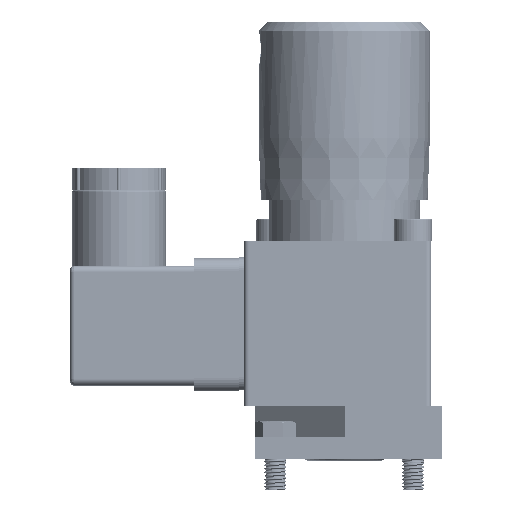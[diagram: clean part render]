
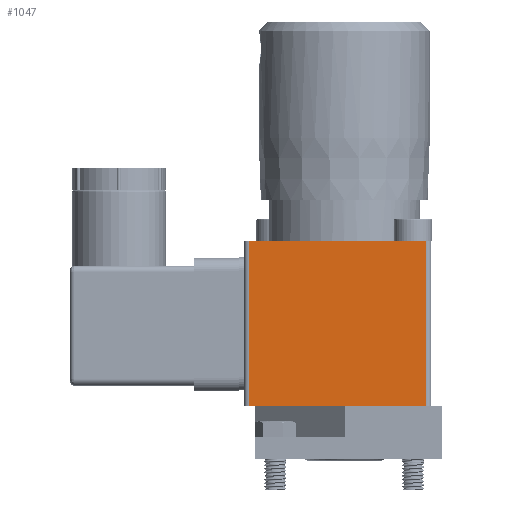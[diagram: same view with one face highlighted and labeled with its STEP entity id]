
A CAD part, front view. The second image highlights one B-rep face of the part: STEP entity #1047.
In plain terms, the highlighted planar face has unit normal (0, -1, 0).
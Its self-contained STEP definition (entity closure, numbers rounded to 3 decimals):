
#1047=ADVANCED_FACE('',(#1856),#1558,.T.);
#1558=PLANE('',#9251);
#1856=FACE_OUTER_BOUND('',#2309,.T.);
#2309=EDGE_LOOP('',(#4508,#4509,#4510,#4511));
#2957=LINE('',#23786,#3639);
#2960=LINE('',#23806,#3642);
#2973=LINE('',#23862,#3655);
#2974=LINE('',#23863,#3656);
#3639=VECTOR('',#10181,1.);
#3642=VECTOR('',#10200,1.);
#3655=VECTOR('',#10251,1.);
#3656=VECTOR('',#10252,1.);
#4508=ORIENTED_EDGE('',*,*,#7690,.F.);
#4509=ORIENTED_EDGE('',*,*,#7727,.F.);
#4510=ORIENTED_EDGE('',*,*,#7700,.T.);
#4511=ORIENTED_EDGE('',*,*,#7728,.T.);
#6817=VERTEX_POINT('',#23787);
#6818=VERTEX_POINT('',#23788);
#6826=VERTEX_POINT('',#23807);
#6827=VERTEX_POINT('',#23808);
#7690=EDGE_CURVE('',#6817,#6818,#2957,.T.);
#7700=EDGE_CURVE('',#6826,#6827,#2960,.T.);
#7727=EDGE_CURVE('',#6826,#6817,#2973,.T.);
#7728=EDGE_CURVE('',#6827,#6818,#2974,.T.);
#9251=AXIS2_PLACEMENT_3D('',#23864,#10253,#10254);
#10181=DIRECTION('',(-1.,0.,0.));
#10200=DIRECTION('',(-1.,0.,0.));
#10251=DIRECTION('',(0.,0.,-1.));
#10252=DIRECTION('',(0.,0.,-1.));
#10253=DIRECTION('',(0.,-1.,0.));
#10254=DIRECTION('',(0.,0.,1.));
#23786=CARTESIAN_POINT('',(38.5,1.5,24.5));
#23787=CARTESIAN_POINT('',(38.5,1.5,24.5));
#23788=CARTESIAN_POINT('',(-1.5,1.5,24.5));
#23806=CARTESIAN_POINT('',(38.5,1.5,61.5));
#23807=CARTESIAN_POINT('',(38.5,1.5,61.5));
#23808=CARTESIAN_POINT('',(-1.5,1.5,61.5));
#23862=CARTESIAN_POINT('',(38.5,1.5,61.5));
#23863=CARTESIAN_POINT('',(-1.5,1.5,61.5));
#23864=CARTESIAN_POINT('',(38.5,1.5,61.5));
